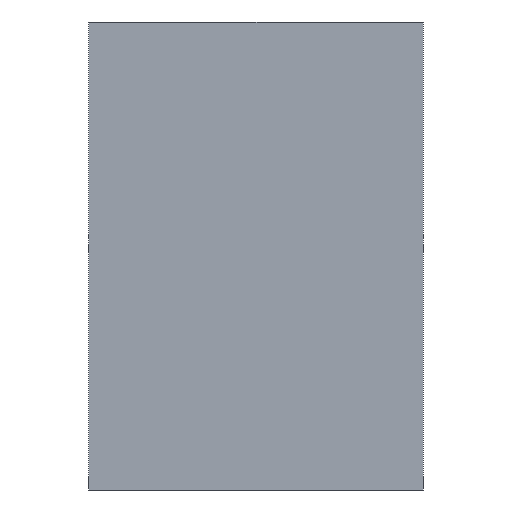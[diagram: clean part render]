
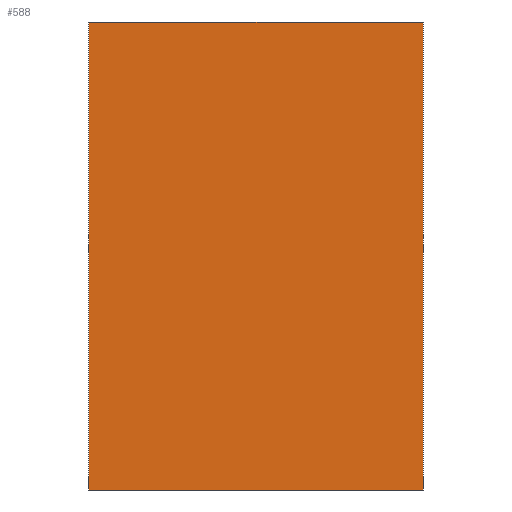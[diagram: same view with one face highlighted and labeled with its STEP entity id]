
A CAD part, left-side view. The second image highlights one B-rep face of the part: STEP entity #588.
In plain terms, the highlighted planar face has unit normal (-1, 0, 0).
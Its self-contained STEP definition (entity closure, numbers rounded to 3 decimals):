
#40 = VERTEX_POINT('',#41);
#41 = CARTESIAN_POINT('',(-27.5,-12.5,35.));
#47 = EDGE_CURVE('',#48,#40,#50,.T.);
#48 = VERTEX_POINT('',#49);
#49 = CARTESIAN_POINT('',(-27.5,-12.5,0.));
#50 = LINE('',#51,#52);
#51 = CARTESIAN_POINT('',(-27.5,-12.5,0.));
#52 = VECTOR('',#53,1.);
#53 = DIRECTION('',(0.,0.,1.));
#385 = VERTEX_POINT('',#386);
#386 = CARTESIAN_POINT('',(-27.5,12.5,0.));
#392 = EDGE_CURVE('',#48,#385,#393,.T.);
#393 = LINE('',#394,#395);
#394 = CARTESIAN_POINT('',(-27.5,-12.5,0.));
#395 = VECTOR('',#396,1.);
#396 = DIRECTION('',(0.,1.,0.));
#588 = ADVANCED_FACE('',(#589),#607,.T.);
#589 = FACE_BOUND('',#590,.T.);
#590 = EDGE_LOOP('',(#591,#592,#600,#606));
#591 = ORIENTED_EDGE('',*,*,#47,.T.);
#592 = ORIENTED_EDGE('',*,*,#593,.T.);
#593 = EDGE_CURVE('',#40,#594,#596,.T.);
#594 = VERTEX_POINT('',#595);
#595 = CARTESIAN_POINT('',(-27.5,12.5,35.));
#596 = LINE('',#597,#598);
#597 = CARTESIAN_POINT('',(-27.5,-12.5,35.));
#598 = VECTOR('',#599,1.);
#599 = DIRECTION('',(0.,1.,0.));
#600 = ORIENTED_EDGE('',*,*,#601,.F.);
#601 = EDGE_CURVE('',#385,#594,#602,.T.);
#602 = LINE('',#603,#604);
#603 = CARTESIAN_POINT('',(-27.5,12.5,0.));
#604 = VECTOR('',#605,1.);
#605 = DIRECTION('',(0.,0.,1.));
#606 = ORIENTED_EDGE('',*,*,#392,.F.);
#607 = PLANE('',#608);
#608 = AXIS2_PLACEMENT_3D('',#609,#610,#611);
#609 = CARTESIAN_POINT('',(-27.5,-12.5,0.));
#610 = DIRECTION('',(-1.,0.,0.));
#611 = DIRECTION('',(0.,1.,0.));
